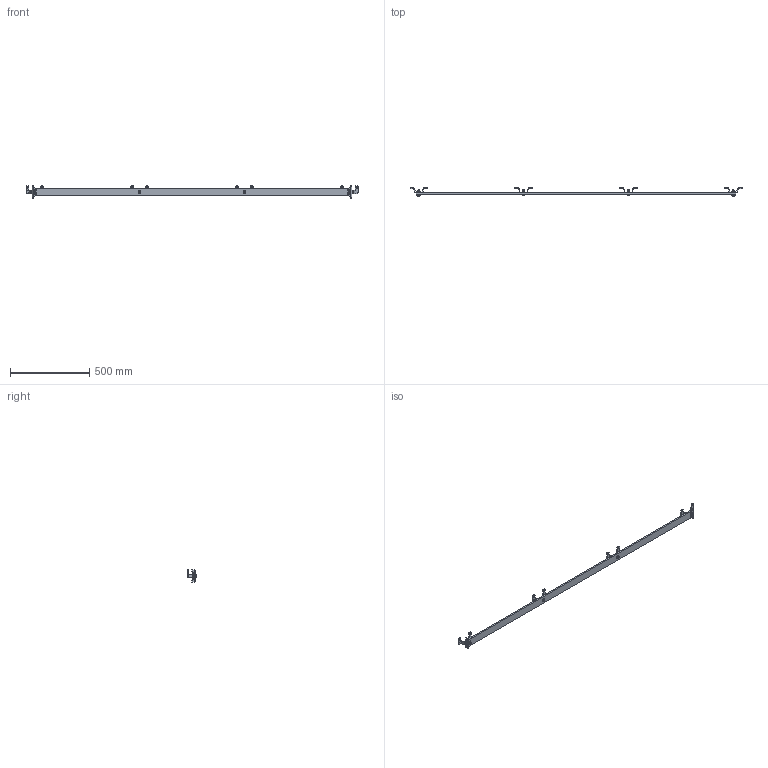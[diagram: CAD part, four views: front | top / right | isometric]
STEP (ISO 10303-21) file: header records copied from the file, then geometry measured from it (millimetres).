
FILE_DESCRIPTION(/* description */ ('Sortiment 3'),/* implementation_level */ '2;1');
FILE_NAME(/* name */ 'D:\Public\STP\010330090-TP.stp',/* time_stamp */ '2020-05-13T16:46:48+02:00',/* author */ ('M.Barta'),/* organization */ (''),/* preprocessor_version */ 'ST-DEVELOPER v17.2',/* originating_system */ 'Autodesk Inventor 2019',/* authorisation */ '');
FILE_SCHEMA (('AUTOMOTIVE_DESIGN { 1 0 10303 214 3 1 1 }'));
Length unit declared in the file: millimetre
Products named in the file (9): 010330090; 337000393; 337000389; 010330101; DIN 125 - A 8,4; DIN 127 - A 8; DIN EN ISO 4032 - M8; ISO 4017 - M8 x 35; DIN 127 - A 8_1
Assembly tree (31 placements, depth 2):
  010330090
    337000393
    337000389  x2
    010330101  x4
    DIN 125 - A 8,4  x8
    DIN 127 - A 8  x4
    DIN EN ISO 4032 - M8  x4
    ISO 4017 - M8 x 35  x4
    DIN 127 - A 8_1  x4
Bounding box: 2090 x 52.9 x 80 mm (x, y, z)
Volume: 1099816.7 mm3; surface area: 305015.4 mm2
Topology: 31 solids, 31 shells, 510 faces, 1232 edges, 796 vertices
Faces by surface type: plane 294, cylinder 168, cone 44, bspline 4
Full cylindrical faces by diameter (mm): 6.647 x4, 8 x4, 8.4 x8, 8.5 x12, 11.63 x4, 16 x8
Entity records: 5019 total; most frequent: CARTESIAN_POINT 921, DIRECTION 834, ORIENTED_EDGE 732, EDGE_CURVE 366, AXIS2_PLACEMENT_3D 311, VERTEX_POINT 238, LINE 212, VECTOR 212
